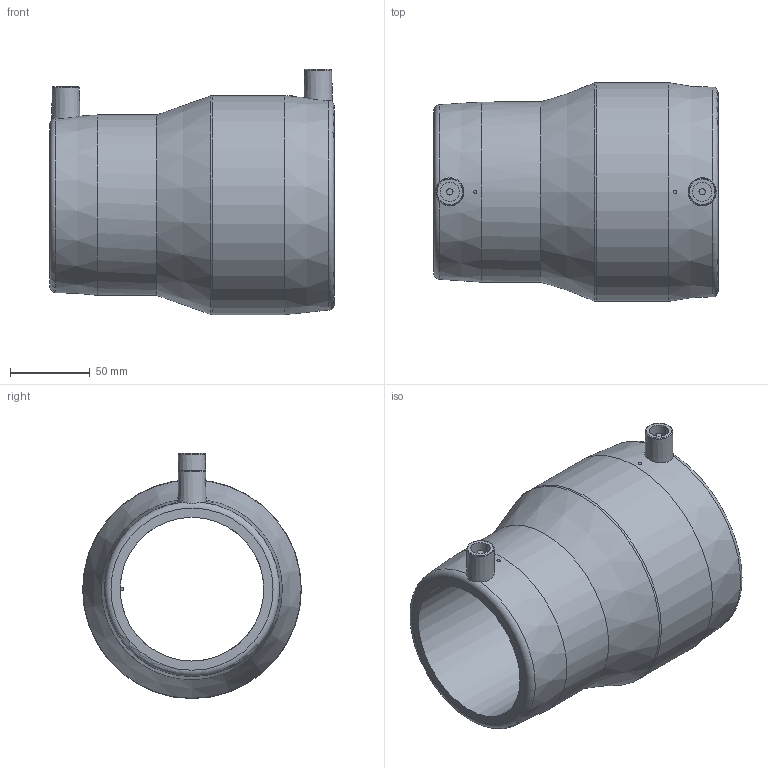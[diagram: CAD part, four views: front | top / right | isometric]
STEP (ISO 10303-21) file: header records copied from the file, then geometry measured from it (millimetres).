
FILE_DESCRIPTION(/* description */ ('Unknown'),/* implementation_level */ '2;1');
FILE_NAME(/* name */ 'REP110090C',/* time_stamp */ '2021-05-24T11:39:28+02:00',/* author */ ('Unknown'),/* organization */ ('Unknown'),/* preprocessor_version */ 'ST-DEVELOPER v16.7',/* originating_system */ 'Solid Edge',/* authorisation */ 'Unknown');
FILE_SCHEMA (('AUTOMOTIVE_DESIGN {1 0 10303 214 3 1 1}'));
Length unit declared in the file: millimetre
Products named in the file (1): REP110090C
Bounding box: 178 x 137 x 153.5 mm (x, y, z)
Volume: 804497.4 mm3; surface area: 136105 mm2
Topology: 1 solids, 1 shells, 36 faces, 79 edges, 50 vertices
Faces by surface type: plane 15, cylinder 10, cone 6, torus 5
Full cylindrical faces by diameter (mm): 2 x2, 4 x2, 12 x2, 90 x1, 110 x1, 113 x1, 137 x1
Entity records: 847 total; most frequent: CARTESIAN_POINT 175, DIRECTION 142, ORIENTED_EDGE 90, AXIS2_PLACEMENT_3D 66, EDGE_LOOP 65, FACE_BOUND 65, EDGE_CURVE 45, VERTEX_POINT 38
